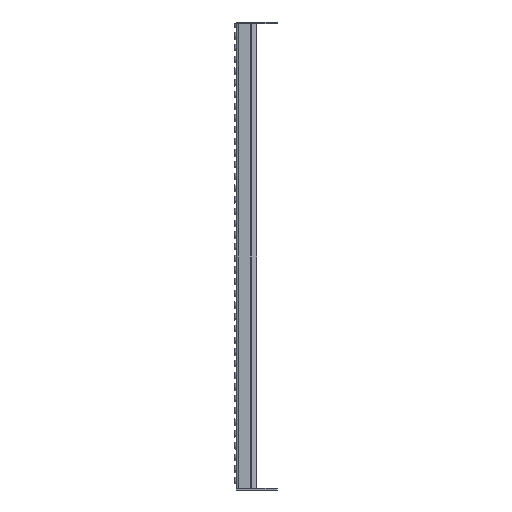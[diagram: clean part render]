
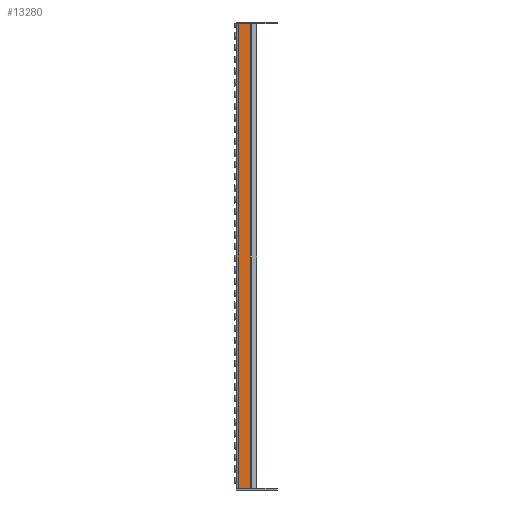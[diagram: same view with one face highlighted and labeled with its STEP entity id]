
A CAD part, left-side view. The second image highlights one B-rep face of the part: STEP entity #13280.
In plain terms, the highlighted planar face has unit normal (-1, 0, 0).
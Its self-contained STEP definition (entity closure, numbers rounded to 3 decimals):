
#1923=FACE_OUTER_BOUND('',#2950,.T.);
#2950=EDGE_LOOP('',(#11475,#11476,#11477,#11478));
#3973=LINE('',#25772,#5225);
#3984=LINE('',#25802,#5236);
#3994=LINE('',#25825,#5246);
#4001=LINE('',#25840,#5253);
#5225=VECTOR('',#17810,10.);
#5236=VECTOR('',#17835,10.);
#5246=VECTOR('',#17857,10.);
#5253=VECTOR('',#17876,10.);
#6560=VERTEX_POINT('',#25769);
#6561=VERTEX_POINT('',#25771);
#6573=VERTEX_POINT('',#25801);
#6580=VERTEX_POINT('',#25824);
#8215=EDGE_CURVE('',#6561,#6560,#3973,.T.);
#8230=EDGE_CURVE('',#6560,#6573,#3984,.T.);
#8242=EDGE_CURVE('',#6580,#6561,#3994,.T.);
#8250=EDGE_CURVE('',#6573,#6580,#4001,.T.);
#11475=ORIENTED_EDGE('',*,*,#8230,.T.);
#11476=ORIENTED_EDGE('',*,*,#8250,.T.);
#11477=ORIENTED_EDGE('',*,*,#8242,.T.);
#11478=ORIENTED_EDGE('',*,*,#8215,.T.);
#12415=PLANE('',#14647);
#13280=ADVANCED_FACE('',(#1923),#12415,.T.);
#14647=AXIS2_PLACEMENT_3D('',#25841,#17877,#17878);
#17810=DIRECTION('',(0.,1.,0.));
#17835=DIRECTION('',(0.,0.,-1.));
#17857=DIRECTION('',(0.,0.,1.));
#17876=DIRECTION('',(0.,-1.,0.));
#17877=DIRECTION('center_axis',(-1.,0.,0.));
#17878=DIRECTION('ref_axis',(0.,0.,1.));
#25769=CARTESIAN_POINT('',(0.,-3.25,794.));
#25771=CARTESIAN_POINT('',(0.,-24.427,794.));
#25772=CARTESIAN_POINT('',(0.,0.,794.));
#25801=CARTESIAN_POINT('',(0.,-3.25,0.));
#25802=CARTESIAN_POINT('',(0.,-3.25,0.));
#25824=CARTESIAN_POINT('',(0.,-24.427,0.));
#25825=CARTESIAN_POINT('',(0.,-24.427,198.5));
#25840=CARTESIAN_POINT('',(0.,0.,0.));
#25841=CARTESIAN_POINT('Origin',(0.,-25.,0.));
